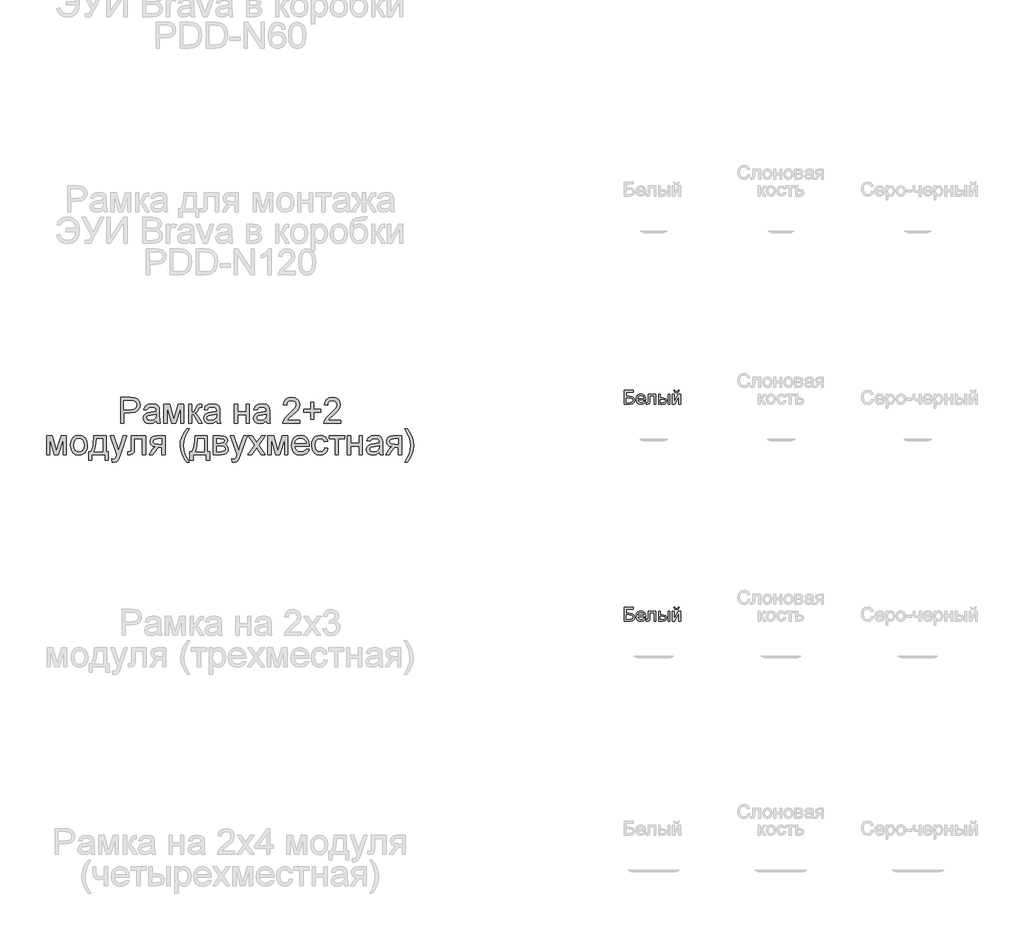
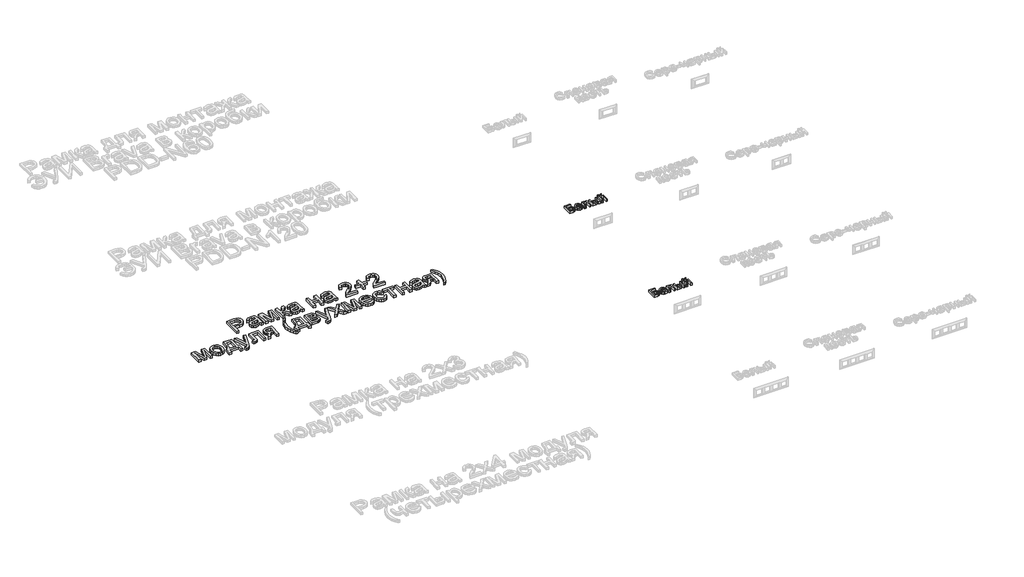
# One storey, part 41 of 47: 3 proxies.
"""IFC4 building model written with IfcOpenShell, lengths in millimetres."""

from ifc_helpers import new_model, si_unit, origin, origin_with_axes, place, context, project, spatial, polyline, outline, extrude, element, save

model = new_model("IFC4")

# Units and contexts
model_context = context("Model", 3, world=origin())
ifc_project = project(units=[si_unit("LENGTHUNIT", "METRE", prefix="MILLI")], contexts=[model_context])

# Site, building, storey
site = spatial("IfcSite", under=ifc_project)
building = spatial("IfcBuilding", under=site)
storey = spatial("IfcBuildingStorey", under=building, Name="Этаж 01", Elevation=0.0)

# Proxies
placement = place(None, origin())
element("IfcBuildingElementProxy", 1, Name="150 мм Arial", ObjectType="150 мм Arial", at=placement, inside=storey, context=model_context, shape_type="SweptSolid", body=[
    extrude(outline(polyline([(-3095.0664048, 1635.1507705), (-3095.0664048, 1785.8352357), (-3039.2219179, 1785.8352357), (-3016.7075398, 1784.4004959), (-2998.4054106, 1777.3555557), (-2986.5412162, 1762.7874287), (-2982.0530559, 1742.2412193), (-2985.0834838, 1724.4817159), (-2994.1747676, 1709.6836627), (-3011.1755143, 1699.6956665), (-3037.9343309, 1696.3663345), (-3076.2308466, 1696.3663345), (-3076.2308466, 1635.1507705), (-3095.0664048, 1635.1507705)]), holes=[polyline([(-3076.2308466, 1715.2018926), (-3036.8306849, 1715.2018926), (-3020.1288424, 1716.930938), (-3009.0923825, 1722.1180741), (-3002.9395561, 1730.4414043), (-3000.888614, 1741.5790317), (-3005.7262623, 1757.1772283), (-3018.4365852, 1765.7120905), (-3037.2721433, 1766.9996775), (-3076.2308466, 1766.9996775), (-3076.2308466, 1715.2018926)])]), origin_with_axes(), (0.0, 0.0, 1.0), 20.0),
    extrude(outline(polyline([(-2887.8752651, 1649.2774391), (-2906.1406062, 1636.5119338), (-2926.3189336, 1632.7963257), (-2942.0596845, 1635.0312088), (-2953.6709599, 1641.7358582), (-2960.8308633, 1651.9169924), (-2963.2174977, 1664.5813301), (-2959.6122542, 1679.4805509), (-2950.1392928, 1690.2962815), (-2936.9507233, 1696.4766991), (-2920.6535509, 1699.3093904), (-2887.9856297, 1705.7841135), (-2887.8752651, 1709.9779683), (-2889.1720491, 1718.3840719), (-2893.0624012, 1723.8839077), (-2901.7628104, 1727.9673978), (-2913.8845222, 1729.3285612), (-2932.9408095, 1725.7049236), (-2942.0274948, 1712.8474478), (-2960.8630529, 1715.2018926), (-2952.7144668, 1733.5959924), (-2936.3069298, 1744.3749348), (-2911.456501, 1748.1641194), (-2888.6294232, 1744.8163932), (-2875.7351593, 1736.4102896), (-2869.9594119, 1723.6263903), (-2869.0397069, 1707.1452769), (-2869.0397069, 1683.7111938), (-2868.0832138, 1650.9880904), (-2864.3308174, 1635.1507705), (-2883.1663756, 1635.1507705), (-2887.8752651, 1649.2774391)]), holes=[polyline([(-2887.8752651, 1686.9485554), (-2918.2623179, 1681.1728081), (-2934.4675198, 1678.1193875), (-2941.8067656, 1673.1529806), (-2944.3819396, 1665.9057053), (-2938.7717391, 1655.715374), (-2922.3090199, 1651.6318838), (-2903.2527325, 1656.1384383), (-2890.9654739, 1667.0461394), (-2887.9856297, 1681.6142664), (-2887.8752651, 1686.9485554)])]), origin_with_axes(), (0.0, 0.0, 1.0), 20.0),
    extrude(outline(polyline([(-2843.1408145, 1745.8096746), (-2810.7304107, 1745.8096746), (-2785.7512232, 1657.2236902), (-2758.8222612, 1745.8096746), (-2727.7730208, 1745.8096746), (-2727.7730208, 1635.1507705), (-2746.608579, 1635.1507705), (-2746.608579, 1724.2517897), (-2773.6846938, 1635.1507705), (-2798.4063639, 1635.1507705), (-2824.3052563, 1728.5192208), (-2824.3052563, 1635.1507705), (-2843.1408145, 1635.1507705), (-2843.1408145, 1745.8096746)])), origin_with_axes(), (0.0, 0.0, 1.0), 20.0),
    extrude(outline(polyline([(-2699.5196836, 1745.8096746), (-2680.6841254, 1745.8096746), (-2680.6841254, 1698.7207792), (-2668.065773, 1702.1052936), (-2657.7282889, 1721.8237685), (-2649.1382443, 1738.8383108), (-2641.5598752, 1744.3749348), (-2627.7826945, 1745.8096746), (-2624.177451, 1745.8096746), (-2624.177451, 1726.8637519), (-2629.2542225, 1726.9741165), (-2638.4512724, 1724.9875537), (-2644.9259955, 1712.5899304), (-2652.5227587, 1699.1806317), (-2663.1729424, 1692.6139381), (-2651.290354, 1685.2838894), (-2639.6284948, 1669.8420426), (-2619.4685614, 1635.1507705), (-2640.8792935, 1635.1507705), (-2660.6345567, 1669.1062786), (-2670.5673706, 1683.4720705), (-2680.6841254, 1686.9485554), (-2680.6841254, 1635.1507705), (-2699.5196836, 1635.1507705), (-2699.5196836, 1745.8096746)])), origin_with_axes(), (0.0, 0.0, 1.0), 20.0),
    extrude(outline(polyline([(-2537.0629945, 1649.2774391), (-2555.3283356, 1636.5119338), (-2575.506663, 1632.7963257), (-2591.2474139, 1635.0312088), (-2602.8586893, 1641.7358582), (-2610.0185927, 1651.9169924), (-2612.4052271, 1664.5813301), (-2608.7999836, 1679.4805509), (-2599.3270222, 1690.2962815), (-2586.1384527, 1696.4766991), (-2569.8412803, 1699.3093904), (-2537.1733591, 1705.7841135), (-2537.0629945, 1709.9779683), (-2538.3597785, 1718.3840719), (-2542.2501306, 1723.8839077), (-2550.9505398, 1727.9673978), (-2563.0722516, 1729.3285612), (-2582.1285389, 1725.7049236), (-2591.2152242, 1712.8474478), (-2610.0507823, 1715.2018926), (-2601.9021962, 1733.5959924), (-2585.4946592, 1744.3749348), (-2560.6442304, 1748.1641194), (-2537.8171526, 1744.8163932), (-2524.9228887, 1736.4102896), (-2519.1471413, 1723.6263903), (-2518.2274363, 1707.1452769), (-2518.2274363, 1683.7111938), (-2517.2709432, 1650.9880904), (-2513.5185468, 1635.1507705), (-2532.354105, 1635.1507705), (-2537.0629945, 1649.2774391)]), holes=[polyline([(-2537.0629945, 1686.9485554), (-2567.4500473, 1681.1728081), (-2583.6552492, 1678.1193875), (-2590.994495, 1673.1529806), (-2593.569669, 1665.9057053), (-2587.9594685, 1655.715374), (-2571.4967492, 1651.6318838), (-2552.4404619, 1656.1384383), (-2540.1532033, 1667.0461394), (-2537.1733591, 1681.6142664), (-2537.0629945, 1686.9485554)])]), origin_with_axes(), (0.0, 0.0, 1.0), 20.0),
    extrude(outline(polyline([(-2433.4674247, 1745.8096746), (-2414.6318665, 1745.8096746), (-2414.6318665, 1703.4296688), (-2365.1885264, 1703.4296688), (-2365.1885264, 1745.8096746), (-2346.3529682, 1745.8096746), (-2346.3529682, 1635.1507705), (-2365.1885264, 1635.1507705), (-2365.1885264, 1684.5941106), (-2414.6318665, 1684.5941106), (-2414.6318665, 1635.1507705), (-2433.4674247, 1635.1507705), (-2433.4674247, 1745.8096746)])), origin_with_axes(), (0.0, 0.0, 1.0), 20.0),
    extrude(outline(polyline([(-2247.4662879, 1649.2774391), (-2265.731629, 1636.5119338), (-2285.9099564, 1632.7963257), (-2301.6507073, 1635.0312088), (-2313.2619827, 1641.7358582), (-2320.4218861, 1651.9169924), (-2322.8085205, 1664.5813301), (-2319.203277, 1679.4805509), (-2309.7303156, 1690.2962815), (-2296.5417461, 1696.4766991), (-2280.2445737, 1699.3093904), (-2247.5766525, 1705.7841135), (-2247.4662879, 1709.9779683), (-2248.7630719, 1718.3840719), (-2252.653424, 1723.8839077), (-2261.3538332, 1727.9673978), (-2273.475545, 1729.3285612), (-2292.5318323, 1725.7049236), (-2301.6185176, 1712.8474478), (-2320.4540757, 1715.2018926), (-2312.3054895, 1733.5959924), (-2295.8979526, 1744.3749348), (-2271.0475238, 1748.1641194), (-2248.220446, 1744.8163932), (-2235.3261821, 1736.4102896), (-2229.5504347, 1723.6263903), (-2228.6307297, 1707.1452769), (-2228.6307297, 1683.7111938), (-2227.6742366, 1650.9880904), (-2223.9218402, 1635.1507705), (-2242.7573984, 1635.1507705), (-2247.4662879, 1649.2774391)]), holes=[polyline([(-2247.4662879, 1686.9485554), (-2277.8533407, 1681.1728081), (-2294.0585426, 1678.1193875), (-2301.3977884, 1673.1529806), (-2303.9729624, 1665.9057053), (-2298.3627619, 1655.715374), (-2281.9000426, 1651.6318838), (-2262.8437553, 1656.1384383), (-2250.5564967, 1667.0461394), (-2247.5766525, 1681.6142664), (-2247.4662879, 1686.9485554)])]), origin_with_axes(), (0.0, 0.0, 1.0), 20.0),
    extrude(outline(polyline([(-2052.0473721, 1653.9863286), (-2052.0473721, 1635.1507705), (-2150.9340524, 1635.1507705), (-2148.9107014, 1648.1370049), (-2137.4695713, 1668.1313913), (-2113.8883354, 1689.9651877), (-2081.3675671, 1721.3455219), (-2075.269923, 1732.1612526), (-2073.237375, 1742.6826776), (-2075.1549599, 1752.1142523), (-2080.9077146, 1759.9547373), (-2089.750678, 1765.2384425), (-2100.9388892, 1766.9996775), (-2112.6881204, 1765.2798292), (-2121.8161924, 1760.1202842), (-2127.7069029, 1751.9257128), (-2129.7440494, 1741.1007851), (-2148.5796076, 1743.4552298), (-2144.0132723, 1761.6745856), (-2134.1402393, 1774.9827168), (-2119.4755433, 1783.122106), (-2100.534219, 1785.8352357), (-2081.454939, 1782.8186033), (-2066.8178342, 1773.7687062), (-2057.5058212, 1760.2490429), (-2054.4018168, 1743.8231118), (-2057.749543, 1725.962441), (-2068.8779733, 1707.4947648), (-2095.8621177, 1681.6878428), (-2117.5303672, 1663.5696546), (-2126.0284413, 1653.9863286), (-2052.0473721, 1653.9863286)])), origin_with_axes(), (0.0, 0.0, 1.0), 20.0),
    extrude(outline(polyline([(-1990.8318081, 1658.6952181), (-1990.8318081, 1698.7207792), (-2030.8573691, 1698.7207792), (-2030.8573691, 1717.5563374), (-1990.8318081, 1717.5563374), (-1990.8318081, 1757.5818985), (-1971.9962499, 1757.5818985), (-1971.9962499, 1717.5563374), (-1931.9706888, 1717.5563374), (-1931.9706888, 1698.7207792), (-1971.9962499, 1698.7207792), (-1971.9962499, 1658.6952181), (-1990.8318081, 1658.6952181)])), origin_with_axes(), (0.0, 0.0, 1.0), 20.0),
    extrude(outline(polyline([(-1814.2484504, 1653.9863286), (-1814.2484504, 1635.1507705), (-1913.1351307, 1635.1507705), (-1911.1117797, 1648.1370049), (-1899.6706497, 1668.1313913), (-1876.0894138, 1689.9651877), (-1843.5686454, 1721.3455219), (-1837.4710013, 1732.1612526), (-1835.4384533, 1742.6826776), (-1837.3560382, 1752.1142523), (-1843.1087929, 1759.9547373), (-1851.9517564, 1765.2384425), (-1863.1399675, 1766.9996775), (-1874.8891988, 1765.2798292), (-1884.0172708, 1760.1202842), (-1889.9079812, 1751.9257128), (-1891.9451278, 1741.1007851), (-1910.7806859, 1743.4552298), (-1906.2143506, 1761.6745856), (-1896.3413176, 1774.9827168), (-1881.6766216, 1783.122106), (-1862.7352973, 1785.8352357), (-1843.6560174, 1782.8186033), (-1829.0189125, 1773.7687062), (-1819.7068995, 1760.2490429), (-1816.6028951, 1743.8231118), (-1819.9506213, 1725.962441), (-1831.0790517, 1707.4947648), (-1858.063196, 1681.6878428), (-1879.7314455, 1663.5696546), (-1888.2295196, 1653.9863286), (-1814.2484504, 1653.9863286)])), origin_with_axes(), (0.0, 0.0, 1.0), 20.0),
    extrude(outline(polyline([(-3525.9297975, 1562.8474478), (-3493.5193938, 1562.8474478), (-3468.5402063, 1474.2614634), (-3441.6112442, 1562.8474478), (-3410.5620038, 1562.8474478), (-3410.5620038, 1452.1885437), (-3429.397562, 1452.1885437), (-3429.397562, 1541.2895629), (-3456.4736768, 1452.1885437), (-3481.1953469, 1452.1885437), (-3507.0942394, 1545.5569941), (-3507.0942394, 1452.1885437), (-3525.9297975, 1452.1885437), (-3525.9297975, 1562.8474478)])), origin_with_axes(), (0.0, 0.0, 1.0), 20.0),
    extrude(outline(polyline([(-3387.0175562, 1507.5179958), (-3382.9432631, 1534.1986375), (-3370.7203838, 1552.9514222), (-3355.6188279, 1562.139275), (-3337.5374278, 1565.2018926), (-3317.749975, 1561.4724889), (-3301.9448448, 1550.2842777), (-3291.5843681, 1532.5201759), (-3288.1308759, 1509.0631001), (-3289.6575861, 1490.0344039), (-3294.237717, 1475.5490504), (-3301.7379112, 1464.7011301), (-3312.0248114, 1456.5847335), (-3324.2430922, 1451.5217576), (-3337.5374278, 1449.8340989), (-3357.5640039, 1453.5497071), (-3373.35074, 1464.6965315), (-3383.6008521, 1482.8331139), (-3387.0175562, 1507.5179958)]), holes=[polyline([(-3368.181998, 1507.554784), (-3366.0022972, 1490.508052), (-3359.4631947, 1478.3633476), (-3349.6223513, 1471.0930797), (-3337.5374278, 1468.6696571), (-3325.5076866, 1471.1068753), (-3315.6852373, 1478.4185299), (-3309.1461348, 1490.7241827), (-3306.966434, 1508.1433952), (-3309.1599304, 1524.6934864), (-3315.7404196, 1536.6726439), (-3325.5766644, 1543.9429118), (-3337.5374278, 1546.3663345), (-3349.6223513, 1543.9521089), (-3359.4631947, 1536.7094321), (-3366.0022972, 1524.5923189), (-3368.181998, 1507.554784)])]), origin_with_axes(), (0.0, 0.0, 1.0), 20.0),
    extrude(outline(polyline([(-3250.4597595, 1562.8474478), (-3179.8264165, 1562.8474478), (-3179.8264165, 1471.0241018), (-3165.6997479, 1471.0241018), (-3165.6997479, 1421.5807617), (-3184.535306, 1421.5807617), (-3184.535306, 1452.1885437), (-3262.2319834, 1452.1885437), (-3262.2319834, 1421.5807617), (-3281.0675415, 1421.5807617), (-3281.0675415, 1471.0241018), (-3269.2953177, 1471.0241018), (-3260.7374628, 1486.4889412), (-3254.7455848, 1506.9477787), (-3250.4597595, 1562.8474478)]), holes=[polyline([(-3233.9786462, 1544.0118897), (-3238.3932301, 1501.0984549), (-3248.1053148, 1471.0241018), (-3198.6619746, 1471.0241018), (-3198.6619746, 1544.0118897), (-3233.9786462, 1544.0118897)])]), origin_with_axes(), (0.0, 0.0, 1.0), 20.0),
    extrude(outline(polyline([(-3144.5097449, 1409.8085378), (-3146.8641897, 1427.9451202), (-3137.2992578, 1426.2896512), (-3128.3597253, 1428.3681845), (-3122.8782836, 1434.1623259), (-3117.7279357, 1448.0314771), (-3116.2564077, 1452.5932139), (-3156.2819688, 1562.8474478), (-3136.416341, 1562.8474478), (-3115.1895499, 1501.4111546), (-3107.7951218, 1476.8366374), (-3100.4006937, 1498.5416751), (-3078.5852914, 1562.8474478), (-3058.8668165, 1562.8474478), (-3097.3840614, 1449.5397933), (-3107.3904516, 1424.965276), (-3118.3165469, 1411.684736), (-3132.9950385, 1407.4540931), (-3144.5097449, 1409.8085378)])), origin_with_axes(), (0.0, 0.0, 1.0), 20.0),
    extrude(outline(polyline([(-3033.8508408, 1562.8474478), (-2949.0908291, 1562.8474478), (-2949.0908291, 1452.2989083), (-2967.9263873, 1452.2989083), (-2967.9263873, 1544.0118897), (-3015.0152826, 1544.0118897), (-3015.0152826, 1491.2208234), (-3016.2844755, 1466.8670353), (-3023.2558393, 1456.5847335), (-3039.7369527, 1452.1885437), (-3055.0408437, 1453.1450369), (-3055.0408437, 1471.0241018), (-3046.616346, 1471.0241018), (-3038.0998778, 1472.1829301), (-3034.6969694, 1475.8617501), (-3033.8508408, 1492.2876812), (-3033.8508408, 1562.8474478)])), origin_with_axes(), (0.0, 0.0, 1.0), 20.0),
    extrude(outline(polyline([(-2836.0774802, 1562.8474478), (-2836.0774802, 1452.1885437), (-2854.9130383, 1452.1885437), (-2854.9130383, 1494.5685495), (-2865.176946, 1494.5685495), (-2879.1564618, 1492.1773166), (-2892.289849, 1476.1008734), (-2907.2994344, 1452.1885437), (-2929.0780486, 1452.1885437), (-2910.168914, 1482.4284437), (-2901.8179927, 1493.2809626), (-2894.129259, 1498.1002167), (-2907.0051289, 1502.0457511), (-2916.0550259, 1509.5413467), (-2921.407709, 1519.5109488), (-2923.1919366, 1530.8785025), (-2920.7547184, 1543.7727664), (-2913.4430638, 1553.9814918), (-2901.5144901, 1560.6309588), (-2885.2265147, 1562.8474478), (-2836.0774802, 1562.8474478)]), holes=[polyline([(-2854.9130383, 1544.0118897), (-2879.745073, 1544.0118897), (-2892.5703591, 1542.9220393), (-2899.849824, 1539.652488), (-2904.3563785, 1529.4437627), (-2902.696311, 1522.2654652), (-2897.7161085, 1517.2852627), (-2874.1900549, 1513.4041077), (-2854.9130383, 1513.4041077), (-2854.9130383, 1544.0118897)])]), origin_with_axes(), (0.0, 0.0, 1.0), 20.0),
    extrude(outline(polyline([(-2711.2919074, 1409.8085378), (-2725.8876256, 1430.2903679), (-2738.0369285, 1453.9911655), (-2746.2314999, 1479.7612992), (-2748.9630237, 1506.451138), (-2746.9212786, 1529.8576299), (-2740.7960434, 1552.2524464), (-2728.6375435, 1577.6179099), (-2711.2919074, 1602.8730089), (-2697.1652388, 1602.8730089), (-2714.7867864, 1573.0377791), (-2725.3817878, 1544.1222543), (-2730.1274656, 1506.3407734), (-2728.0673264, 1482.1939189), (-2721.8869089, 1458.0562615), (-2711.586213, 1433.9278012), (-2697.1652388, 1409.8085378), (-2711.2919074, 1409.8085378)])), origin_with_axes(), (0.0, 0.0, 1.0), 20.0),
    extrude(outline(polyline([(-2661.8485673, 1562.8474478), (-2591.2152242, 1562.8474478), (-2591.2152242, 1471.0241018), (-2577.0885556, 1471.0241018), (-2577.0885556, 1421.5807617), (-2595.9241137, 1421.5807617), (-2595.9241137, 1452.1885437), (-2673.6207911, 1452.1885437), (-2673.6207911, 1421.5807617), (-2692.4563493, 1421.5807617), (-2692.4563493, 1471.0241018), (-2680.6841254, 1471.0241018), (-2672.1262705, 1486.4889412), (-2666.1343925, 1506.9477787), (-2661.8485673, 1562.8474478)]), holes=[polyline([(-2645.3674539, 1544.0118897), (-2649.7820378, 1501.0984549), (-2659.4941225, 1471.0241018), (-2610.0507823, 1471.0241018), (-2610.0507823, 1544.0118897), (-2645.3674539, 1544.0118897)])]), origin_with_axes(), (0.0, 0.0, 1.0), 20.0),
    extrude(outline(polyline([(-2555.8985527, 1562.8474478), (-2514.4014636, 1562.8474478), (-2491.6479622, 1560.3274562), (-2478.8456688, 1551.0936181), (-2473.4929857, 1534.9987808), (-2476.7303473, 1521.9205759), (-2486.4792202, 1512.5947673), (-2473.8240795, 1502.3860419), (-2468.7840962, 1484.6357357), (-2471.9754725, 1470.2791408), (-2479.5630387, 1460.171583), (-2491.5743858, 1454.1843035), (-2508.0371051, 1452.1885437), (-2555.8985527, 1452.1885437), (-2555.8985527, 1562.8474478)]), holes=[polyline([(-2537.0629945, 1471.0241018), (-2513.9600052, 1471.0241018), (-2493.4689781, 1474.4270103), (-2489.2291381, 1479.066922), (-2487.6196543, 1486.18084), (-2490.8386218, 1495.2491312), (-2499.2263313, 1500.5282379), (-2515.7994152, 1501.6318838), (-2537.0629945, 1501.6318838), (-2537.0629945, 1471.0241018)]), polyline([(-2537.0629945, 1520.467442), (-2518.4481655, 1520.467442), (-2503.0890922, 1521.4239352), (-2495.6210877, 1525.2499079), (-2492.3285439, 1532.1660894), (-2493.7724807, 1537.7854869), (-2498.1042912, 1541.3999275), (-2517.8595544, 1544.0118897), (-2537.0629945, 1544.0118897), (-2537.0629945, 1520.467442)])]), origin_with_axes(), (0.0, 0.0, 1.0), 20.0),
    extrude(outline(polyline([(-2445.2396485, 1409.8085378), (-2447.5940933, 1427.9451202), (-2438.0291614, 1426.2896512), (-2429.0896289, 1428.3681845), (-2423.6081872, 1434.1623259), (-2418.4578393, 1448.0314771), (-2416.9863113, 1452.5932139), (-2457.0118724, 1562.8474478), (-2437.1462446, 1562.8474478), (-2415.9194535, 1501.4111546), (-2408.5250254, 1476.8366374), (-2401.1305973, 1498.5416751), (-2379.315195, 1562.8474478), (-2359.59672, 1562.8474478), (-2398.1139649, 1449.5397933), (-2408.1203552, 1424.965276), (-2419.0464504, 1411.684736), (-2433.7249421, 1407.4540931), (-2445.2396485, 1409.8085378)])), origin_with_axes(), (0.0, 0.0, 1.0), 20.0),
    extrude(outline(polyline([(-2355.7707473, 1452.1885437), (-2315.524457, 1507.8123014), (-2353.4163025, 1562.8474478), (-2330.7547716, 1562.8474478), (-2312.4710364, 1536.3599442), (-2303.9361742, 1523.8519564), (-2296.5417461, 1534.0790758), (-2275.7196251, 1562.8474478), (-2253.0580942, 1562.8474478), (-2292.8629261, 1507.8123014), (-2254.5296222, 1452.1885437), (-2277.1911531, 1452.1885437), (-2300.2573542, 1485.6290171), (-2304.4879972, 1491.7358582), (-2333.1092164, 1452.1885437), (-2355.7707473, 1452.1885437)])), origin_with_axes(), (0.0, 0.0, 1.0), 20.0),
    extrude(outline(polyline([(-2238.0485088, 1562.8474478), (-2205.638105, 1562.8474478), (-2180.6589176, 1474.2614634), (-2153.7299555, 1562.8474478), (-2122.6807151, 1562.8474478), (-2122.6807151, 1452.1885437), (-2141.5162733, 1452.1885437), (-2141.5162733, 1541.2895629), (-2168.5923881, 1452.1885437), (-2193.3140582, 1452.1885437), (-2219.2129507, 1545.5569941), (-2219.2129507, 1452.1885437), (-2238.0485088, 1452.1885437), (-2238.0485088, 1562.8474478)])), origin_with_axes(), (0.0, 0.0, 1.0), 20.0),
    extrude(outline(polyline([(-2016.9514297, 1485.1507705), (-1998.4837536, 1482.7963257), (-2005.1378192, 1468.8811892), (-2015.7558132, 1458.4793258), (-2030.0986125, 1451.9954056), (-2047.9270937, 1449.8340989), (-2070.0276046, 1453.5635026), (-2087.0329498, 1464.7517138), (-2097.8762716, 1482.6721655), (-2101.4907122, 1506.5982908), (-2097.8394834, 1531.3291579), (-2086.885797, 1549.8244252), (-2070.110378, 1561.3575258), (-2048.9939515, 1565.2018926), (-2028.535114, 1561.3667228), (-2012.1873579, 1549.8612134), (-2001.4681962, 1531.4027343), (-1997.8951424, 1506.7086554), (-1998.005507, 1501.6318838), (-2082.6551541, 1501.6318838), (-2079.3947999, 1487.5328064), (-2071.8210293, 1477.1677312), (-2060.8903355, 1470.7941756), (-2047.5592117, 1468.6696571), (-2029.0915356, 1472.6059944), (-2016.9514297, 1485.1507705)]), holes=[polyline([(-2082.6551541, 1520.467442), (-2016.7307005, 1520.467442), (-2019.2782833, 1530.41865), (-2024.2722814, 1537.5371666), (-2035.253559, 1544.1590425), (-2049.0675279, 1546.3663345), (-2061.7640553, 1544.6050994), (-2072.2624877, 1539.3213942), (-2079.5603468, 1531.0854361), (-2082.6551541, 1520.467442)])]), origin_with_axes(), (0.0, 0.0, 1.0), 20.0),
    extrude(outline(polyline([(-1908.4262411, 1492.2141048), (-1889.590683, 1489.85966), (-1894.8421985, 1473.1072336), (-1904.710633, 1460.4474945), (-1918.2670845, 1452.4874478), (-1934.582651, 1449.8340989), (-1954.6184242, 1453.5359115), (-1970.2855986, 1464.6413492), (-1980.397755, 1482.6629685), (-1983.7684738, 1507.1133256), (-1982.3291354, 1523.874949), (-1978.0111205, 1538.4016893), (-1970.7454511, 1550.1325264), (-1960.4631494, 1558.5064403), (-1948.1620951, 1563.5280295), (-1934.8401684, 1565.2018926), (-1918.9246736, 1562.9026301), (-1906.2005551, 1556.0048427), (-1897.0724831, 1544.8764124), (-1891.9451278, 1529.8852211), (-1910.7806859, 1527.5307763), (-1919.5178833, 1541.6390508), (-1934.6930156, 1546.3663345), (-1946.8653111, 1544.0394808), (-1956.526812, 1537.05892), (-1962.8313897, 1525.0475728), (-1964.9329156, 1507.6283604), (-1962.877375, 1489.9746231), (-1956.710753, 1477.9218893), (-1947.2239961, 1470.9827151), (-1935.2080504, 1468.6696571), (-1925.454579, 1470.1135939), (-1917.4577441, 1474.4454044), (-1911.6406101, 1481.7754532), (-1908.4262411, 1492.2141048)])), origin_with_axes(), (0.0, 0.0, 1.0), 20.0),
    extrude(outline(polyline([(-1882.5273487, 1562.8474478), (-1793.0584475, 1562.8474478), (-1793.0584475, 1544.0118897), (-1828.375119, 1544.0118897), (-1828.375119, 1452.1885437), (-1847.2106771, 1452.1885437), (-1847.2106771, 1544.0118897), (-1882.5273487, 1544.0118897), (-1882.5273487, 1562.8474478)])), origin_with_axes(), (0.0, 0.0, 1.0), 20.0),
    extrude(outline(polyline([(-1776.5773341, 1562.8474478), (-1757.7417759, 1562.8474478), (-1757.7417759, 1520.467442), (-1708.2984358, 1520.467442), (-1708.2984358, 1562.8474478), (-1689.4628776, 1562.8474478), (-1689.4628776, 1452.1885437), (-1708.2984358, 1452.1885437), (-1708.2984358, 1501.6318838), (-1757.7417759, 1501.6318838), (-1757.7417759, 1452.1885437), (-1776.5773341, 1452.1885437), (-1776.5773341, 1562.8474478)])), origin_with_axes(), (0.0, 0.0, 1.0), 20.0),
    extrude(outline(polyline([(-1590.5761973, 1466.3152123), (-1608.8415384, 1453.5497071), (-1629.0198658, 1449.8340989), (-1644.7606167, 1452.068982), (-1656.3718921, 1458.7736314), (-1663.5317955, 1468.9547656), (-1665.9184299, 1481.6191033), (-1662.3131864, 1496.5183241), (-1652.840225, 1507.3340548), (-1639.6516555, 1513.5144723), (-1623.3544831, 1516.3471636), (-1590.6865619, 1522.8218868), (-1590.5761973, 1527.0157415), (-1591.8729813, 1535.4218451), (-1595.7633334, 1540.9216809), (-1604.4637426, 1545.0051711), (-1616.5854544, 1546.3663345), (-1635.6417417, 1542.7426968), (-1644.728427, 1529.8852211), (-1663.5639852, 1532.2396658), (-1655.415399, 1550.6337656), (-1639.007862, 1561.4127081), (-1614.1574332, 1565.2018926), (-1591.3303554, 1561.8541665), (-1578.4360915, 1553.4480629), (-1572.6603441, 1540.6641635), (-1571.7406392, 1524.1830501), (-1571.7406392, 1500.7489671), (-1570.784146, 1468.0258636), (-1567.0317496, 1452.1885437), (-1585.8673078, 1452.1885437), (-1590.5761973, 1466.3152123)]), holes=[polyline([(-1590.5761973, 1503.9863286), (-1620.9632501, 1498.2105813), (-1637.168452, 1495.1571607), (-1644.5076978, 1490.1907538), (-1647.0828718, 1482.9434785), (-1641.4726713, 1472.7531472), (-1625.0099521, 1468.6696571), (-1605.9536647, 1473.1762115), (-1593.6664061, 1484.0839127), (-1590.6865619, 1498.6520397), (-1590.5761973, 1503.9863286)])]), origin_with_axes(), (0.0, 0.0, 1.0), 20.0),
    extrude(outline(polyline([(-1461.081735, 1562.8474478), (-1461.081735, 1452.1885437), (-1479.9172932, 1452.1885437), (-1479.9172932, 1494.5685495), (-1490.1812008, 1494.5685495), (-1504.1607166, 1492.1773166), (-1517.2941039, 1476.1008734), (-1532.3036893, 1452.1885437), (-1554.0823034, 1452.1885437), (-1535.1731688, 1482.4284437), (-1526.8222475, 1493.2809626), (-1519.1335138, 1498.1002167), (-1532.0093837, 1502.0457511), (-1541.0592808, 1509.5413467), (-1546.4119638, 1519.5109488), (-1548.1961915, 1530.8785025), (-1545.7589732, 1543.7727664), (-1538.4473186, 1553.9814918), (-1526.5187449, 1560.6309588), (-1510.2307696, 1562.8474478), (-1461.081735, 1562.8474478)]), holes=[polyline([(-1479.9172932, 1544.0118897), (-1504.7493278, 1544.0118897), (-1517.5746139, 1542.9220393), (-1524.8540789, 1539.652488), (-1529.3606333, 1529.4437627), (-1527.7005658, 1522.2654652), (-1522.7203633, 1517.2852627), (-1499.1943097, 1513.4041077), (-1479.9172932, 1513.4041077), (-1479.9172932, 1544.0118897)])]), origin_with_axes(), (0.0, 0.0, 1.0), 20.0),
    extrude(outline(polyline([(-1428.1195082, 1409.8085378), (-1442.2461769, 1409.8085378), (-1427.8252026, 1433.9278012), (-1417.5245068, 1458.0562615), (-1411.3440893, 1482.1939189), (-1409.2839501, 1506.3407734), (-1414.0296278, 1543.7911605), (-1424.5142647, 1572.7434735), (-1442.2461769, 1602.8730089), (-1428.1195082, 1602.8730089), (-1410.7738722, 1577.6179099), (-1398.6153722, 1552.2524464), (-1392.490137, 1529.8576299), (-1390.4483919, 1506.451138), (-1393.1937113, 1479.7612992), (-1401.4296695, 1453.9911655), (-1413.592768, 1430.2903679), (-1428.1195082, 1409.8085378)])), origin_with_axes(), (0.0, 0.0, 1.0), 20.0),
])
element("IfcBuildingElementProxy", 2, Name="80 мм Arial", ObjectType="80 мм Arial", at=placement, inside=storey, context=model_context, shape_type="SweptSolid", body=[
    extrude(outline(polyline([(-164.9738634, 1826.0786168), (-114.7457083, 1826.0786168), (-114.7457083, 1816.0329858), (-154.9282324, 1816.0329858), (-154.9282324, 1792.1746121), (-136.1122946, 1792.1746121), (-119.5330794, 1790.1340933), (-109.6640317, 1782.4232867), (-105.9557812, 1769.238396), (-108.5947214, 1757.7899083), (-116.4723012, 1749.0882729), (-134.3072203, 1745.7135687), (-164.9738634, 1745.7135687), (-164.9738634, 1826.0786168)]), holes=[polyline([(-154.9282324, 1755.7591997), (-133.4046831, 1755.7591997), (-120.357135, 1759.0750428), (-116.0014122, 1769.0225719), (-118.4931996, 1776.8903415), (-125.4290015, 1781.0891013), (-140.5661193, 1782.1289811), (-154.9282324, 1782.1289811), (-154.9282324, 1755.7591997)])]), origin_with_axes(), (0.0, 0.0, 1.0), 20.0),
    extrude(outline(polyline([(-52.0782367, 1763.293423), (-42.2288094, 1762.0377191), (-51.4405746, 1749.0686525), (-68.5985909, 1744.4578648), (-80.38553, 1746.4468801), (-89.4550474, 1752.4139261), (-95.2381524, 1761.9715003), (-97.1658541, 1774.7321005), (-95.218532, 1787.9218963), (-89.3765659, 1797.7860388), (-80.4296758, 1803.9370258), (-69.1675817, 1805.9873548), (-58.2562017, 1803.9419309), (-49.5373984, 1797.8056592), (-43.8205122, 1787.961137), (-41.9148835, 1774.7909616), (-41.9737446, 1772.0833501), (-87.120223, 1772.0833501), (-81.3420232, 1759.035802), (-68.4023871, 1754.5034958), (-58.5529598, 1756.6028758), (-52.0782367, 1763.293423)]), holes=[polyline([(-87.120223, 1782.1289811), (-51.9605145, 1782.1289811), (-55.982691, 1791.2328342), (-69.2068224, 1795.9417238), (-81.5774676, 1792.1844223), (-87.120223, 1782.1289811)])]), origin_with_axes(), (0.0, 0.0, 1.0), 20.0),
    extrude(outline(polyline([(-26.8464369, 1804.7316509), (18.3589026, 1804.7316509), (18.3589026, 1745.7724298), (8.3132716, 1745.7724298), (8.3132716, 1794.6860199), (-16.8008059, 1794.6860199), (-16.8008059, 1766.5307845), (-17.4777088, 1753.5420976), (-21.1957695, 1748.0582033), (-29.9856966, 1745.7135687), (-38.1477718, 1746.2236984), (-38.1477718, 1755.7591997), (-33.6547064, 1755.7591997), (-29.11259, 1756.3772415), (-27.2977055, 1758.3392788), (-26.8464369, 1767.0997753), (-26.8464369, 1804.7316509)])), origin_with_axes(), (0.0, 0.0, 1.0), 20.0),
    extrude(outline(polyline([(33.4273491, 1804.7316509), (43.4729802, 1804.7316509), (43.4729802, 1783.384685), (55.8926763, 1783.384685), (74.5810817, 1778.3520593), (79.5033428, 1772.365393), (81.1440965, 1764.4706454), (75.6405818, 1751.2170833), (68.4914084, 1747.0894474), (58.0509174, 1745.7135687), (33.4273491, 1745.7135687), (33.4273491, 1804.7316509)]), holes=[polyline([(43.4729802, 1755.7591997), (53.7932964, 1755.7591997), (67.1155297, 1757.8683898), (71.0984654, 1764.451025), (68.1455993, 1770.6314425), (55.1078614, 1773.339054), (43.4729802, 1773.339054), (43.4729802, 1755.7591997)])]), origin_with_axes(), (0.0, 0.0, 1.0), 20.0),
    extrude(outline(polyline([(88.6783197, 1804.7316509), (98.7239507, 1804.7316509), (98.7239507, 1745.7135687), (88.6783197, 1745.7135687), (88.6783197, 1804.7316509)])), origin_with_axes(), (0.0, 0.0, 1.0), 20.0),
    extrude(outline(polyline([(113.7923973, 1804.7316509), (123.8380283, 1804.7316509), (123.8380283, 1759.7225151), (148.5204576, 1804.7316509), (161.5091446, 1804.7316509), (161.5091446, 1745.7135687), (151.4635136, 1745.7135687), (151.4635136, 1790.4480193), (126.9380472, 1745.7135687), (113.7923973, 1745.7135687), (113.7923973, 1804.7316509)])), origin_with_axes(), (0.0, 0.0, 1.0), 20.0),
    extrude(outline(polyline([(146.4406981, 1826.0786168), (153.9749213, 1826.0786168), (149.0992586, 1814.9048143), (138.2786229, 1811.0101703), (126.5652601, 1814.8753838), (121.3266205, 1826.0786168), (128.8608438, 1826.0786168), (131.6861775, 1820.4181392), (137.3760857, 1818.5443936), (143.6153643, 1820.3592781), (146.4406981, 1826.0786168)])), origin_with_axes(), (0.0, 0.0, 1.0), 20.0),
])
element("IfcBuildingElementProxy", 3, Name="80 мм Arial", ObjectType="80 мм Arial", at=placement, inside=storey, context=model_context, shape_type="SweptSolid", body=[
    extrude(outline(polyline([(-164.9738634, 564.7618955), (-114.7457083, 564.7618955), (-114.7457083, 554.7162645), (-154.9282324, 554.7162645), (-154.9282324, 530.8578908), (-136.1122946, 530.8578908), (-119.5330794, 528.817372), (-109.6640317, 521.1065654), (-105.9557812, 507.9216747), (-108.5947214, 496.473187), (-116.4723012, 487.7715516), (-134.3072203, 484.3968474), (-164.9738634, 484.3968474), (-164.9738634, 564.7618955)]), holes=[polyline([(-154.9282324, 494.4424784), (-133.4046831, 494.4424784), (-120.357135, 497.7583215), (-116.0014122, 507.7058506), (-118.4931996, 515.5736202), (-125.4290015, 519.77238), (-140.5661193, 520.8122598), (-154.9282324, 520.8122598), (-154.9282324, 494.4424784)])]), origin_with_axes(), (0.0, 0.0, 1.0), 20.0),
    extrude(outline(polyline([(-52.0782367, 501.9767017), (-42.2288094, 500.7209978), (-51.4405746, 487.7519312), (-68.5985909, 483.1411435), (-80.38553, 485.1301588), (-89.4550474, 491.0972048), (-95.2381524, 500.654779), (-97.1658541, 513.4153792), (-95.218532, 526.605175), (-89.3765659, 536.4693175), (-80.4296758, 542.6203045), (-69.1675817, 544.6706335), (-58.2562017, 542.6252096), (-49.5373984, 536.4889379), (-43.8205122, 526.6444157), (-41.9148835, 513.4742403), (-41.9737446, 510.7666288), (-87.120223, 510.7666288), (-81.3420232, 497.7190807), (-68.4023871, 493.1867745), (-58.5529598, 495.2861544), (-52.0782367, 501.9767017)]), holes=[polyline([(-87.120223, 520.8122598), (-51.9605145, 520.8122598), (-55.982691, 529.9161129), (-69.2068224, 534.6250025), (-81.5774676, 530.867701), (-87.120223, 520.8122598)])]), origin_with_axes(), (0.0, 0.0, 1.0), 20.0),
    extrude(outline(polyline([(-26.8464369, 543.4149296), (18.3589026, 543.4149296), (18.3589026, 484.4557085), (8.3132716, 484.4557085), (8.3132716, 533.3692986), (-16.8008059, 533.3692986), (-16.8008059, 505.2140632), (-17.4777088, 492.2253762), (-21.1957695, 486.741482), (-29.9856966, 484.3968474), (-38.1477718, 484.9069771), (-38.1477718, 494.4424784), (-33.6547064, 494.4424784), (-29.11259, 495.0605202), (-27.2977055, 497.0225575), (-26.8464369, 505.783054), (-26.8464369, 543.4149296)])), origin_with_axes(), (0.0, 0.0, 1.0), 20.0),
    extrude(outline(polyline([(33.4273491, 543.4149296), (43.4729802, 543.4149296), (43.4729802, 522.0679637), (55.8926763, 522.0679637), (74.5810817, 517.035338), (79.5033428, 511.0486717), (81.1440965, 503.1539241), (75.6405818, 489.900362), (68.4914084, 485.7727261), (58.0509174, 484.3968474), (33.4273491, 484.3968474), (33.4273491, 543.4149296)]), holes=[polyline([(43.4729802, 494.4424784), (53.7932964, 494.4424784), (67.1155297, 496.5516685), (71.0984654, 503.1343037), (68.1455993, 509.3147212), (55.1078614, 512.0223327), (43.4729802, 512.0223327), (43.4729802, 494.4424784)])]), origin_with_axes(), (0.0, 0.0, 1.0), 20.0),
    extrude(outline(polyline([(88.6783197, 543.4149296), (98.7239507, 543.4149296), (98.7239507, 484.3968474), (88.6783197, 484.3968474), (88.6783197, 543.4149296)])), origin_with_axes(), (0.0, 0.0, 1.0), 20.0),
    extrude(outline(polyline([(113.7923973, 543.4149296), (123.8380283, 543.4149296), (123.8380283, 498.4057938), (148.5204576, 543.4149296), (161.5091446, 543.4149296), (161.5091446, 484.3968474), (151.4635136, 484.3968474), (151.4635136, 529.131298), (126.9380472, 484.3968474), (113.7923973, 484.3968474), (113.7923973, 543.4149296)])), origin_with_axes(), (0.0, 0.0, 1.0), 20.0),
    extrude(outline(polyline([(146.4406981, 564.7618955), (153.9749213, 564.7618955), (149.0992586, 553.588093), (138.2786229, 549.693449), (126.5652601, 553.5586625), (121.3266205, 564.7618955), (128.8608438, 564.7618955), (131.6861775, 559.1014179), (137.3760857, 557.2276723), (143.6153643, 559.0425568), (146.4406981, 564.7618955)])), origin_with_axes(), (0.0, 0.0, 1.0), 20.0),
])

save(model, "model.ifc")
